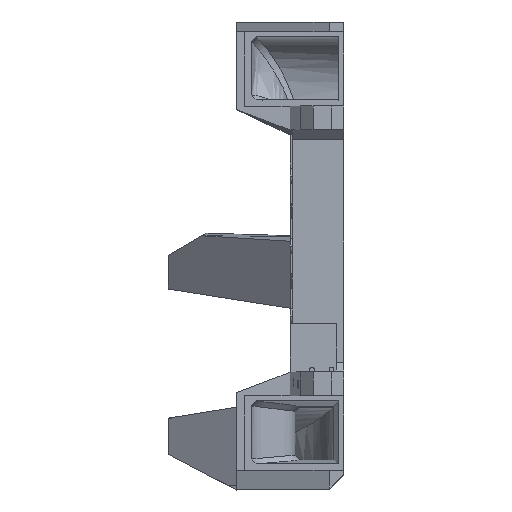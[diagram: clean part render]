
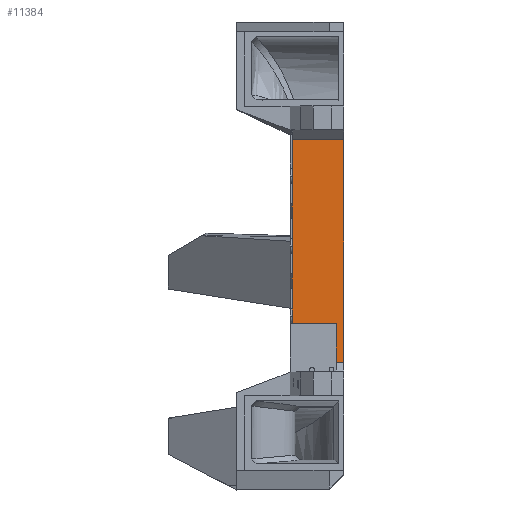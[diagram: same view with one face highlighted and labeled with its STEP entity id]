
A CAD part, top view. The second image highlights one B-rep face of the part: STEP entity #11384.
In plain terms, the highlighted planar face has unit normal (0, 0, 1).
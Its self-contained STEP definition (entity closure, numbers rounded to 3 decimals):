
#548=LINE('',#16190,#1886);
#918=LINE('',#17379,#2256);
#919=LINE('',#17381,#2257);
#920=LINE('',#17383,#2258);
#921=LINE('',#17385,#2259);
#922=LINE('',#17387,#2260);
#923=LINE('',#17389,#2261);
#924=LINE('',#17391,#2262);
#925=LINE('',#17393,#2263);
#926=LINE('',#17395,#2264);
#1886=VECTOR('',#12964,1000.);
#2256=VECTOR('',#13582,1000.);
#2257=VECTOR('',#13583,1000.);
#2258=VECTOR('',#13584,1000.);
#2259=VECTOR('',#13585,1000.);
#2260=VECTOR('',#13586,1000.);
#2261=VECTOR('',#13587,1000.);
#2262=VECTOR('',#13588,1000.);
#2263=VECTOR('',#13589,1000.);
#2264=VECTOR('',#13590,1000.);
#3774=ORIENTED_EDGE('',*,*,#6665,.T.);
#3775=ORIENTED_EDGE('',*,*,#7159,.F.);
#3776=ORIENTED_EDGE('',*,*,#7160,.F.);
#3777=ORIENTED_EDGE('',*,*,#7161,.F.);
#3778=ORIENTED_EDGE('',*,*,#7162,.F.);
#3779=ORIENTED_EDGE('',*,*,#7163,.F.);
#3780=ORIENTED_EDGE('',*,*,#7164,.F.);
#3781=ORIENTED_EDGE('',*,*,#7165,.F.);
#3782=ORIENTED_EDGE('',*,*,#7166,.F.);
#3783=ORIENTED_EDGE('',*,*,#7167,.F.);
#6665=EDGE_CURVE('',#8378,#8377,#548,.T.);
#7159=EDGE_CURVE('',#8832,#8377,#918,.T.);
#7160=EDGE_CURVE('',#8833,#8832,#919,.T.);
#7161=EDGE_CURVE('',#8834,#8833,#920,.T.);
#7162=EDGE_CURVE('',#8835,#8834,#921,.T.);
#7163=EDGE_CURVE('',#8836,#8835,#922,.T.);
#7164=EDGE_CURVE('',#8837,#8836,#923,.T.);
#7165=EDGE_CURVE('',#8838,#8837,#924,.T.);
#7166=EDGE_CURVE('',#8839,#8838,#925,.T.);
#7167=EDGE_CURVE('',#8378,#8839,#926,.T.);
#8377=VERTEX_POINT('',#16189);
#8378=VERTEX_POINT('',#16191);
#8832=VERTEX_POINT('',#17380);
#8833=VERTEX_POINT('',#17382);
#8834=VERTEX_POINT('',#17384);
#8835=VERTEX_POINT('',#17386);
#8836=VERTEX_POINT('',#17388);
#8837=VERTEX_POINT('',#17390);
#8838=VERTEX_POINT('',#17392);
#8839=VERTEX_POINT('',#17394);
#9558=EDGE_LOOP('',(#3774,#3775,#3776,#3777,#3778,#3779,#3780,#3781,#3782,
#3783));
#10258=FACE_BOUND('',#9558,.T.);
#10912=PLANE('',#12134);
#11384=ADVANCED_FACE('',(#10258),#10912,.T.);
#12134=AXIS2_PLACEMENT_3D('',#17378,#13580,#13581);
#12964=DIRECTION('',(0.,1.,0.));
#13580=DIRECTION('',(0.,0.,1.));
#13581=DIRECTION('',(-1.,0.,0.));
#13582=DIRECTION('',(1.,0.,0.));
#13583=DIRECTION('',(0.,1.,0.));
#13584=DIRECTION('',(0.,1.,0.));
#13585=DIRECTION('',(0.,1.,0.));
#13586=DIRECTION('',(0.,1.,0.));
#13587=DIRECTION('',(0.,1.,0.));
#13588=DIRECTION('',(-1.,0.,0.));
#13589=DIRECTION('',(0.,1.,0.));
#13590=DIRECTION('',(-1.,0.,0.));
#16189=CARTESIAN_POINT('',(536.05,-6.8,24.498));
#16190=CARTESIAN_POINT('',(536.05,-54.5,24.498));
#16191=CARTESIAN_POINT('',(536.05,-52.5,24.498));
#17378=CARTESIAN_POINT('',(534.55,-54.5,24.498));
#17379=CARTESIAN_POINT('',(536.05,-6.8,24.498));
#17380=CARTESIAN_POINT('',(525.522,-6.8,24.498));
#17381=CARTESIAN_POINT('',(525.522,-54.5,24.498));
#17382=CARTESIAN_POINT('',(525.522,-19.975,24.498));
#17383=CARTESIAN_POINT('',(525.522,-191.74,24.498));
#17384=CARTESIAN_POINT('',(525.522,-22.975,24.498));
#17385=CARTESIAN_POINT('',(525.522,-53.5,24.498));
#17386=CARTESIAN_POINT('',(525.522,-34.325,24.498));
#17387=CARTESIAN_POINT('',(525.522,-191.74,24.498));
#17388=CARTESIAN_POINT('',(525.522,-37.325,24.498));
#17389=CARTESIAN_POINT('',(525.522,-53.5,24.498));
#17390=CARTESIAN_POINT('',(525.522,-44.5,24.498));
#17391=CARTESIAN_POINT('',(534.55,-44.5,24.498));
#17392=CARTESIAN_POINT('',(534.55,-44.5,24.498));
#17393=CARTESIAN_POINT('',(534.55,-54.5,24.498));
#17394=CARTESIAN_POINT('',(534.55,-52.5,24.498));
#17395=CARTESIAN_POINT('',(534.55,-52.5,24.498));
